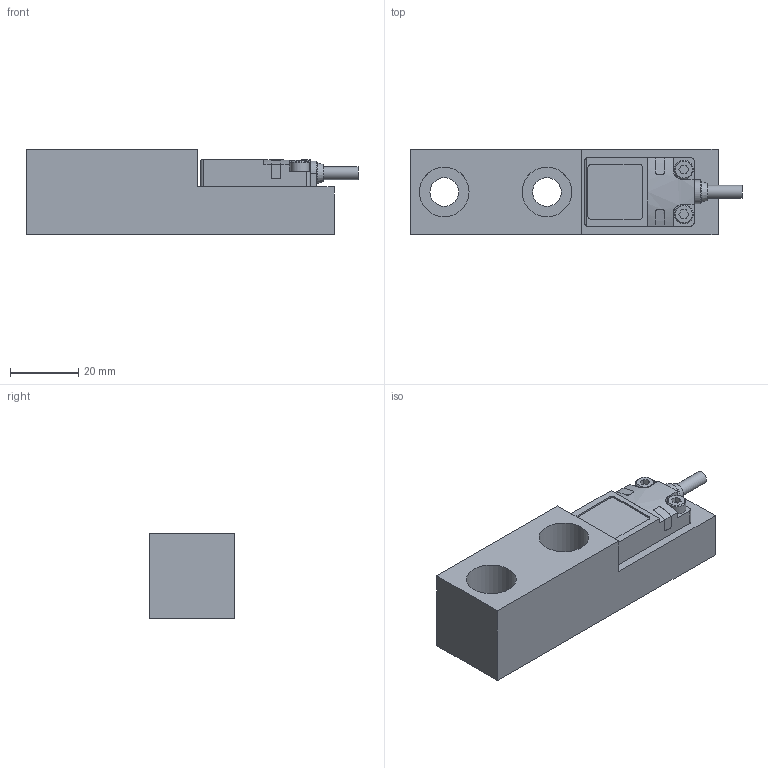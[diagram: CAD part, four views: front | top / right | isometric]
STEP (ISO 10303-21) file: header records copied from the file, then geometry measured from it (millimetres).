
FILE_DESCRIPTION(/* description */ ('PANCAKE STOP ASSEMBLY'),/* implementation_level */ '2;1');
FILE_NAME(/* name */ 'C:\Users\rcarver\Desktop\PANCAKE STOPS\WPS-04-XX.stp',/* time_stamp */ '2016-12-20T14:49:38-05:00',/* author */ ('rcarver'),/* organization */ (''),/* preprocessor_version */ 'ST-DEVELOPER v16.5',/* originating_system */ 'Autodesk Inventor 2017',/* authorisation */ '');
FILE_SCHEMA (('AUTOMOTIVE_DESIGN { 1 0 10303 214 3 1 1 }'));
Length unit declared in the file: millimetre
Products named in the file (4): WPSL01; WPSE04; NBB5-F104M-E2-C-200MM-V1; M3X0.5-8 SHCS
Assembly tree (4 placements, depth 2):
  WPSL01
    WPSE04
    NBB5-F104M-E2-C-200MM-V1
    M3X0.5-8 SHCS  x2
Bounding box: 97 x 25 x 25 mm (x, y, z)
Volume: 44605.3 mm3; surface area: 14065.4 mm2
Topology: 4 solids, 4 shells, 132 faces, 329 edges, 215 vertices
Faces by surface type: plane 77, cylinder 46, cone 7, torus 2
Full cylindrical faces by diameter (mm): 2.459 x2, 3 x2, 3.3 x2, 3.8 x1, 5.5 x2, 8.376 x2, 14.5 x2
Entity records: 3774 total; most frequent: CARTESIAN_POINT 734, DIRECTION 606, ORIENTED_EDGE 562, EDGE_CURVE 281, AXIS2_PLACEMENT_3D 215, VERTEX_POINT 194, LINE 176, VECTOR 176
